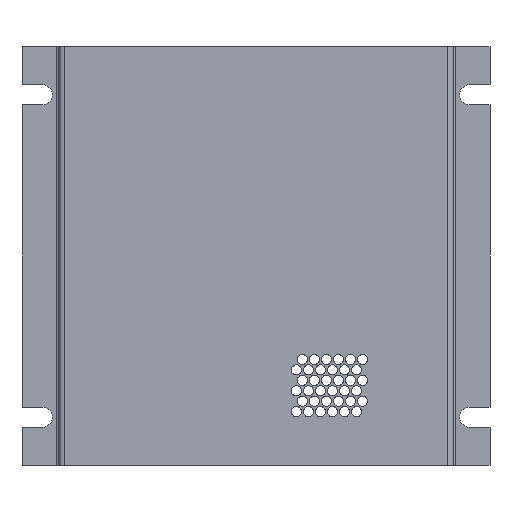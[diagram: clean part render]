
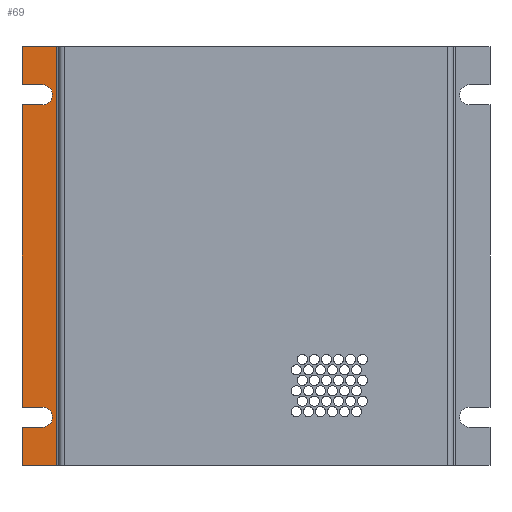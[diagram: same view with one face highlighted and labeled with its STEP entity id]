
A CAD part, front view. The second image highlights one B-rep face of the part: STEP entity #69.
In plain terms, the highlighted planar face has unit normal (0, -1, 0).
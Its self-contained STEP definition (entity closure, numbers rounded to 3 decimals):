
#69 = ADVANCED_FACE( '', ( #206 ), #207, .F. );
#206 = FACE_OUTER_BOUND( '', #462, .T. );
#207 = PLANE( '', #463 );
#462 = EDGE_LOOP( '', ( #832, #833, #834, #835, #836, #837, #838, #839, #840, #841, #842, #843 ) );
#463 = AXIS2_PLACEMENT_3D( '', #844, #845, #846 );
#832 = ORIENTED_EDGE( '', *, *, #1271, .F. );
#833 = ORIENTED_EDGE( '', *, *, #1298, .T. );
#834 = ORIENTED_EDGE( '', *, *, #1291, .F. );
#835 = ORIENTED_EDGE( '', *, *, #1295, .F. );
#836 = ORIENTED_EDGE( '', *, *, #1320, .F. );
#837 = ORIENTED_EDGE( '', *, *, #1321, .F. );
#838 = ORIENTED_EDGE( '', *, *, #1314, .F. );
#839 = ORIENTED_EDGE( '', *, *, #1322, .F. );
#840 = ORIENTED_EDGE( '', *, *, #1323, .F. );
#841 = ORIENTED_EDGE( '', *, *, #1300, .F. );
#842 = ORIENTED_EDGE( '', *, *, #1304, .F. );
#843 = ORIENTED_EDGE( '', *, *, #1307, .T. );
#844 = CARTESIAN_POINT( '', ( 0., 8.077, 0. ) );
#845 = DIRECTION( '', ( 0., 1., 0. ) );
#846 = DIRECTION( '', ( 0., 0., 1. ) );
#1271 = EDGE_CURVE( '', #1506, #1508, #1509, .T. );
#1291 = EDGE_CURVE( '', #1538, #1540, #1541, .F. );
#1295 = EDGE_CURVE( '', #1546, #1538, #1548, .T. );
#1298 = EDGE_CURVE( '', #1506, #1540, #1551, .T. );
#1300 = EDGE_CURVE( '', #1553, #1555, #1556, .T. );
#1304 = EDGE_CURVE( '', #1561, #1553, #1563, .F. );
#1307 = EDGE_CURVE( '', #1561, #1508, #1566, .T. );
#1314 = EDGE_CURVE( '', #1578, #1580, #1581, .T. );
#1320 = EDGE_CURVE( '', #1589, #1546, #1590, .T. );
#1321 = EDGE_CURVE( '', #1580, #1589, #1591, .T. );
#1322 = EDGE_CURVE( '', #1592, #1578, #1593, .T. );
#1323 = EDGE_CURVE( '', #1555, #1592, #1594, .T. );
#1506 = VERTEX_POINT( '', #1846 );
#1508 = VERTEX_POINT( '', #1849 );
#1509 = LINE( '', #1850, #1851 );
#1538 = VERTEX_POINT( '', #1894 );
#1540 = VERTEX_POINT( '', #1897 );
#1541 = CIRCLE( '', #1898, 3.962 );
#1546 = VERTEX_POINT( '', #1904 );
#1548 = LINE( '', #1907, #1908 );
#1551 = LINE( '', #1913, #1914 );
#1553 = VERTEX_POINT( '', #1916 );
#1555 = VERTEX_POINT( '', #1919 );
#1556 = LINE( '', #1920, #1921 );
#1561 = VERTEX_POINT( '', #1928 );
#1563 = CIRCLE( '', #1931, 3.962 );
#1566 = LINE( '', #1935, #1936 );
#1578 = VERTEX_POINT( '', #1951 );
#1580 = VERTEX_POINT( '', #1953 );
#1581 = LINE( '', #1954, #1955 );
#1589 = VERTEX_POINT( '', #1967 );
#1590 = LINE( '', #1968, #1969 );
#1591 = LINE( '', #1970, #1971 );
#1592 = VERTEX_POINT( '', #1972 );
#1593 = LINE( '', #1973, #1974 );
#1594 = LINE( '', #1975, #1976 );
#1846 = CARTESIAN_POINT( '', ( -92.215, 8.077, -59.538 ) );
#1849 = CARTESIAN_POINT( '', ( -92.215, 8.077, 59.538 ) );
#1850 = CARTESIAN_POINT( '', ( -92.215, 8.077, -82.55 ) );
#1851 = VECTOR( '', #2261, 1000. );
#1894 = CARTESIAN_POINT( '', ( -84.138, 8.077, -67.462 ) );
#1897 = CARTESIAN_POINT( '', ( -84.138, 8.077, -59.538 ) );
#1898 = AXIS2_PLACEMENT_3D( '', #2289, #2290, #2291 );
#1904 = CARTESIAN_POINT( '', ( -92.215, 8.077, -67.462 ) );
#1907 = CARTESIAN_POINT( '', ( 0., 8.077, -67.462 ) );
#1908 = VECTOR( '', #2297, 1000. );
#1913 = CARTESIAN_POINT( '', ( 0., 8.077, -59.538 ) );
#1914 = VECTOR( '', #2300, 1000. );
#1916 = CARTESIAN_POINT( '', ( -84.138, 8.077, 67.462 ) );
#1919 = CARTESIAN_POINT( '', ( -92.215, 8.077, 67.462 ) );
#1920 = CARTESIAN_POINT( '', ( 0., 8.077, 67.462 ) );
#1921 = VECTOR( '', #2302, 1000. );
#1928 = CARTESIAN_POINT( '', ( -84.138, 8.077, 59.538 ) );
#1931 = AXIS2_PLACEMENT_3D( '', #2306, #2307, #2308 );
#1935 = CARTESIAN_POINT( '', ( 0., 8.077, 59.538 ) );
#1936 = VECTOR( '', #2313, 1000. );
#1951 = CARTESIAN_POINT( '', ( -78.524, 8.077, 82.55 ) );
#1953 = CARTESIAN_POINT( '', ( -78.524, 8.077, -82.55 ) );
#1954 = CARTESIAN_POINT( '', ( -78.524, 8.077, 82.55 ) );
#1955 = VECTOR( '', #2326, 1000. );
#1967 = CARTESIAN_POINT( '', ( -92.215, 8.077, -82.55 ) );
#1968 = CARTESIAN_POINT( '', ( -92.215, 8.077, -82.55 ) );
#1969 = VECTOR( '', #2334, 1000. );
#1970 = CARTESIAN_POINT( '', ( -77.582, 8.077, -82.55 ) );
#1971 = VECTOR( '', #2335, 1000. );
#1972 = CARTESIAN_POINT( '', ( -92.215, 8.077, 82.55 ) );
#1973 = CARTESIAN_POINT( '', ( -92.215, 8.077, 82.55 ) );
#1974 = VECTOR( '', #2336, 1000. );
#1975 = CARTESIAN_POINT( '', ( -92.215, 8.077, -82.55 ) );
#1976 = VECTOR( '', #2337, 1000. );
#2261 = DIRECTION( '', ( 0., 0., 1. ) );
#2289 = CARTESIAN_POINT( '', ( -84.138, 8.077, -63.5 ) );
#2290 = DIRECTION( '', ( 0., 1., 0. ) );
#2291 = DIRECTION( '', ( 0., 0., 1. ) );
#2297 = DIRECTION( '', ( 1., 0., 0. ) );
#2300 = DIRECTION( '', ( 1., 0., 0. ) );
#2302 = DIRECTION( '', ( -1., 0., 0. ) );
#2306 = CARTESIAN_POINT( '', ( -84.138, 8.077, 63.5 ) );
#2307 = DIRECTION( '', ( 0., 1., 0. ) );
#2308 = DIRECTION( '', ( 0., 0., 1. ) );
#2313 = DIRECTION( '', ( -1., 0., 0. ) );
#2326 = DIRECTION( '', ( 0., 0., -1. ) );
#2334 = DIRECTION( '', ( 0., 0., 1. ) );
#2335 = DIRECTION( '', ( -1., 0., 0. ) );
#2336 = DIRECTION( '', ( 1., 0., 0. ) );
#2337 = DIRECTION( '', ( 0., 0., 1. ) );
